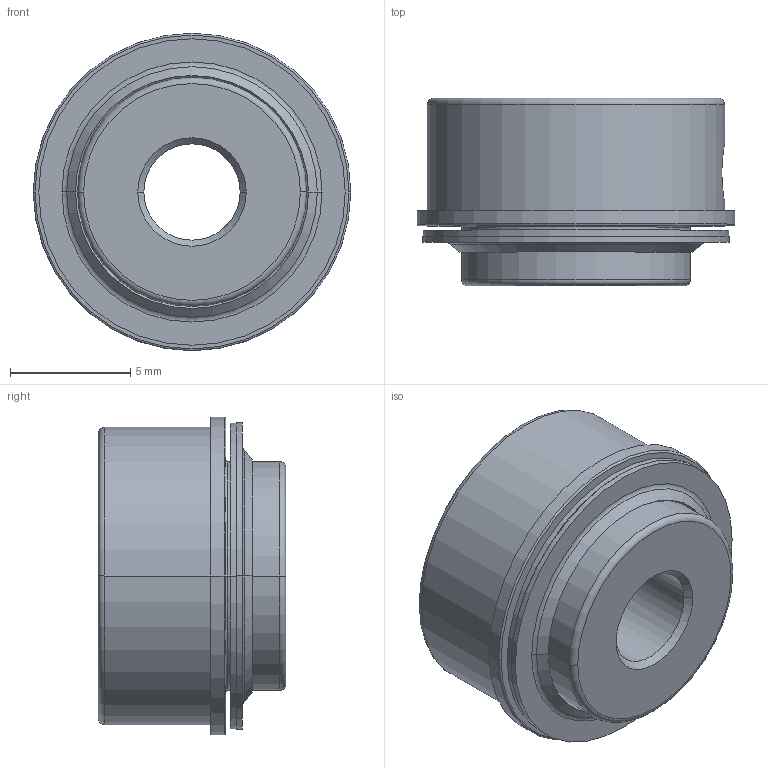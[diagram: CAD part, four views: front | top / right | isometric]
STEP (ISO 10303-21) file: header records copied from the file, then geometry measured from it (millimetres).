
FILE_DESCRIPTION (( 'STEP AP214' ), '1' );
FILE_NAME ('drawing-flange-vcd-de4.STEP', '2021-07-20T14:24:03', ( '' ), ( '' ), 'SwSTEP 2.0', 'SolidWorks 2019', '' );
FILE_SCHEMA (( 'AUTOMOTIVE_DESIGN' ));
Length unit declared in the file: inch
Products named in the file (2): drawing-flange-vcd-de4
Bounding box: 13.21 x 7.8 x 13.21 mm (x, y, z)
Volume: 750 mm3; surface area: 953.5 mm2
Topology: 4 solids, 4 shells, 118 faces, 256 edges, 143 vertices
Faces by surface type: cone 47, cylinder 38, plane 21, torus 12
Entity records: 5248 total; most frequent: CARTESIAN_POINT 1103, DIRECTION 550, ORIENTED_EDGE 504, EDGE_CURVE 252, AXIS2_PLACEMENT_3D 230, VERTEX_POINT 143, EDGE_LOOP 127, LENGTH_MEASURE_WITH_UNIT 124
